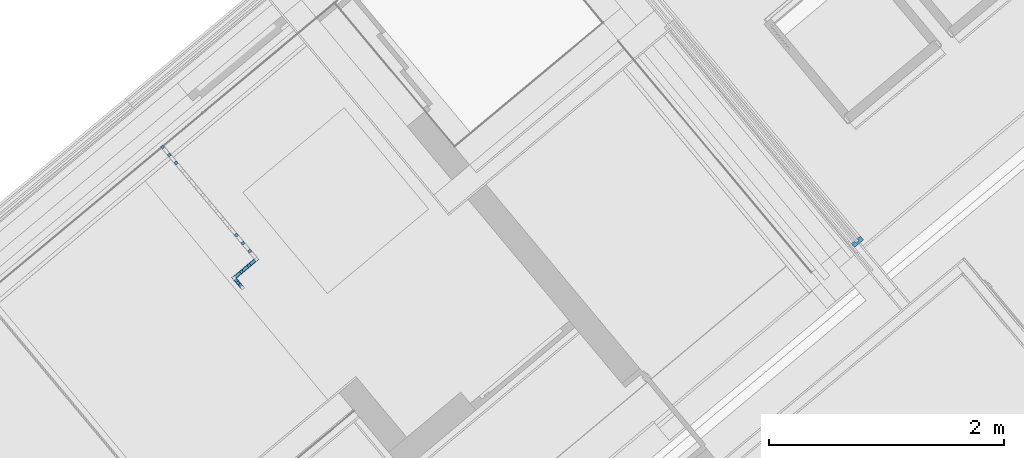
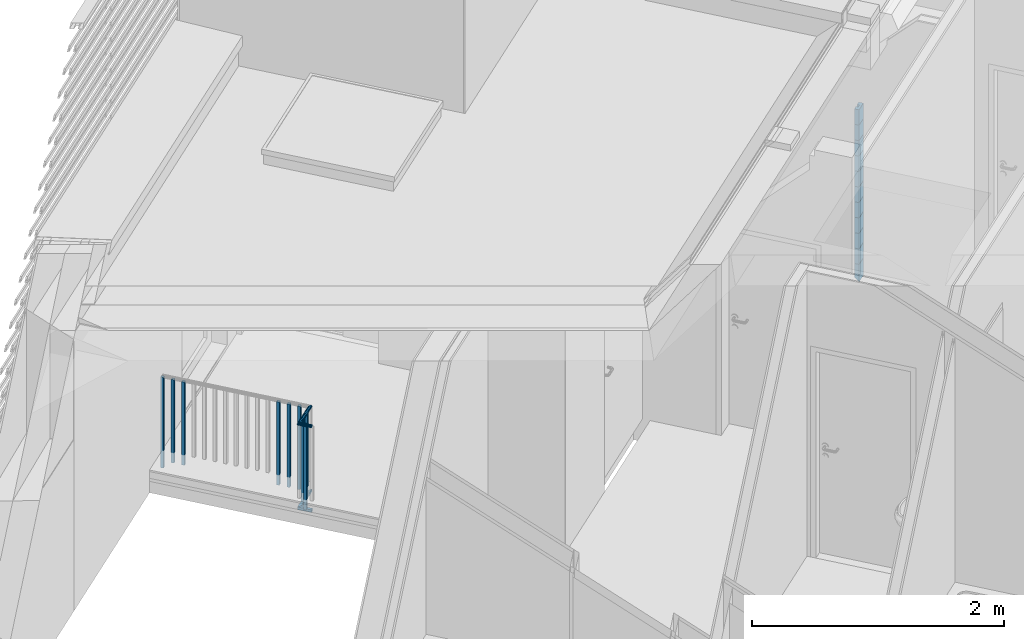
# One storey, part 43 of 50: 24 building element parts, 2 elements without a shape of their own.
"""IFC4 building model written with IfcOpenShell, lengths in metres."""

from ifc_helpers import new_model, entity, si_unit, converted_unit, derived_unit, direction, frame, origin_with_axes, place, context, subcontext, project, spatial, polygons, material, type_object, element, aggregate, save


model = new_model("IFC4")

# Units and contexts
model_context = context("Model", 3, precision=1e-05, world=origin_with_axes(), true_north=direction((0.0, 1.0)))
body_context = subcontext(model_context, "Body", "Model", "MODEL_VIEW")
ifc_project = project(units=[si_unit("LENGTHUNIT", "METRE"), si_unit("AREAUNIT", "SQUARE_METRE"), si_unit("VOLUMEUNIT", "CUBIC_METRE"), converted_unit("PLANEANGLEUNIT", "DEGREE", entity("IfcPlaneAngleMeasure", 0.0174532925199), si_unit("PLANEANGLEUNIT", "RADIAN"), dimensions=[0, 0, 0, 0, 0, 0, 0]), converted_unit("TIMEUNIT", "Year", entity("IfcTimeMeasure", 31556926.0), si_unit("TIMEUNIT", "SECOND"), dimensions=[0, 0, 1, 0, 0, 0, 0]), si_unit("MASSUNIT", "GRAM", prefix="KILO"), si_unit("THERMODYNAMICTEMPERATUREUNIT", "DEGREE_CELSIUS"), si_unit("LUMINOUSINTENSITYUNIT", "LUMEN"), si_unit("ENERGYUNIT", "JOULE", prefix="MEGA"), derived_unit("THERMALCONDUCTANCEUNIT", [(si_unit("POWERUNIT", "WATT"), 1), (si_unit("LENGTHUNIT", "METRE"), -1), (si_unit("THERMODYNAMICTEMPERATUREUNIT", "KELVIN"), -1)]), derived_unit("SPECIFICHEATCAPACITYUNIT", [(si_unit("ENERGYUNIT", "JOULE"), 1), (si_unit("MASSUNIT", "GRAM", prefix="KILO"), -1), (si_unit("THERMODYNAMICTEMPERATUREUNIT", "KELVIN"), -1)]), derived_unit("MASSDENSITYUNIT", [(si_unit("MASSUNIT", "GRAM", prefix="KILO"), 1), (si_unit("VOLUMEUNIT", "CUBIC_METRE"), -1)])], contexts=[model_context])

# Site, building, storey, space
site_placement = place(None, frame((-0.00153261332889, -0.00661245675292, 0.0), z_axis=(0.0, 0.0, 1.0), x_axis=(1.0, 0.0, 0.0)))
site = spatial("IfcSite", under=ifc_project, at=site_placement, Name="Gelände", CompositionType="ELEMENT")
building_placement = place(site_placement, origin_with_axes())
building = spatial("IfcBuilding", under=site, at=building_placement, Name="Gebäude", CompositionType="ELEMENT")
storey_placement = place(building_placement, frame((0.0, 0.0, 8.66), z_axis=(0.0, 0.0, 1.0), x_axis=(1.0, 0.0, 0.0)))
storey = spatial("IfcBuildingStorey", under=building, at=storey_placement, Name="DG2", CompositionType="ELEMENT", Elevation=8.66)
space_1_placement = place(storey_placement, frame((0.280300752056, 22.6307267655, 0.22), z_axis=(0.0, 0.0, 1.0), x_axis=(-0.641244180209, 0.767336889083, 0.0)))
space_1 = spatial("IfcSpace", under=storey, at=space_1_placement, CompositionType="ELEMENT", PredefinedType="NOTDEFINED")

# Railing, building element parts
railing_type = type_object("IfcRailingType", Name="Geländerart", PredefinedType="NOTDEFINED")
railing_placement = place(space_1_placement, frame((2.55535950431, -0.251805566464, -0.17), z_axis=(0.0, 0.0, 1.0), x_axis=(-0.641244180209, -0.767336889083, 0.0)))
railing = element("IfcRailing", 1, at=railing_placement, inside=space_1, type_object=railing_type, Name="Geländer - 001", PredefinedType="NOTDEFINED")
ifc_material_1 = material(Name="BEKLEIDUNG")
building_element_part_1_placement = place(railing_placement, origin_with_axes())
building_element_part_1 = element("IfcBuildingElementPart", 2, at=building_element_part_1_placement, material=ifc_material_1, Name="BEKLEIDUNG", PredefinedType="NOTDEFINED", context=body_context, shape_type="Tessellation", body=[
    polygons([(0.0367920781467, 0.0144514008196, 0.0), (0.0559770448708, 0.0304806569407, 0.0), (0.0559770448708, 0.0304806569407, 0.88), (0.0367920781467, 0.0144514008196, 0.88), (0.0207628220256, 0.0336363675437, 0.0), (0.0399477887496, 0.0496656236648, 0.0), (0.0399477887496, 0.0496656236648, 0.88), (0.0207628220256, 0.0336363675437, 0.88)], [[[1, 2, 3, 4]], [[1, 5, 6, 2]], [[2, 6, 7, 3]], [[4, 3, 7, 8]], [[5, 1, 4, 8]], [[6, 5, 8, 7]]], closed=True),
])
building_element_part_2_placement = place(railing_placement, origin_with_axes())
building_element_part_2 = element("IfcBuildingElementPart", 3, at=building_element_part_2_placement, material=ifc_material_1, Name="BEKLEIDUNG", PredefinedType="NOTDEFINED", context=body_context, shape_type="Tessellation", body=[
    polygons([(0.0938886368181, -0.0538858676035, 0.07), (0.113073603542, -0.0378566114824, 0.07), (0.113073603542, -0.0378566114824, 0.8775), (0.0938886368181, -0.0538858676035, 0.8775), (0.077859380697, -0.0347009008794, 0.07), (0.0970443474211, -0.0186716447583, 0.07), (0.0970443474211, -0.0186716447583, 0.8775), (0.077859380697, -0.0347009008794, 0.8775)], [[[1, 2, 3, 4]], [[1, 5, 6, 2]], [[2, 6, 7, 3]], [[4, 3, 7, 8]], [[5, 1, 4, 8]], [[6, 5, 8, 7]]], closed=True),
])
building_element_part_3_placement = place(railing_placement, origin_with_axes())
building_element_part_3 = element("IfcBuildingElementPart", 4, at=building_element_part_3_placement, material=ifc_material_1, Name="BEKLEIDUNG", PredefinedType="NOTDEFINED", context=body_context, shape_type="Tessellation", body=[
    polygons([(0.15098519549, -0.122223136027, 0.07), (0.170170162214, -0.106193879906, 0.07), (0.170170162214, -0.106193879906, 0.8775), (0.15098519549, -0.122223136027, 0.8775), (0.134955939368, -0.103038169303, 0.07), (0.154140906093, -0.0870089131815, 0.07), (0.154140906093, -0.0870089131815, 0.8775), (0.134955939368, -0.103038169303, 0.8775)], [[[1, 2, 3, 4]], [[1, 5, 6, 2]], [[2, 6, 7, 3]], [[4, 3, 7, 8]], [[5, 1, 4, 8]], [[6, 5, 8, 7]]], closed=True),
])
building_element_part_4_placement = place(railing_placement, origin_with_axes())
building_element_part_4 = element("IfcBuildingElementPart", 5, at=building_element_part_4_placement, material=ifc_material_1, Name="BEKLEIDUNG", PredefinedType="NOTDEFINED", context=body_context, shape_type="Tessellation", body=[
    polygons([(0.664854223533, -0.737258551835, 0.07), (0.684039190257, -0.721229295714, 0.07), (0.684039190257, -0.721229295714, 0.8775), (0.664854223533, -0.737258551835, 0.8775), (0.648824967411, -0.718073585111, 0.07), (0.668009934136, -0.70204432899, 0.07), (0.668009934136, -0.70204432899, 0.8775), (0.648824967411, -0.718073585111, 0.8775)], [[[1, 2, 3, 4]], [[1, 5, 6, 2]], [[2, 6, 7, 3]], [[4, 3, 7, 8]], [[5, 1, 4, 8]], [[6, 5, 8, 7]]], closed=True),
])
building_element_part_5_placement = place(railing_placement, origin_with_axes())
building_element_part_5 = element("IfcBuildingElementPart", 6, at=building_element_part_5_placement, material=ifc_material_1, Name="BEKLEIDUNG", PredefinedType="NOTDEFINED", context=body_context, shape_type="Tessellation", body=[
    polygons([(0.721950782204, -0.805595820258, 0.07), (0.741135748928, -0.789566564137, 0.07), (0.741135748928, -0.789566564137, 0.8775), (0.721950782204, -0.805595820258, 0.8775), (0.705921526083, -0.786410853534, 0.07), (0.725106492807, -0.770381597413, 0.07), (0.725106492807, -0.770381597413, 0.8775), (0.705921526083, -0.786410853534, 0.8775)], [[[1, 2, 3, 4]], [[1, 5, 6, 2]], [[2, 6, 7, 3]], [[4, 3, 7, 8]], [[5, 1, 4, 8]], [[6, 5, 8, 7]]], closed=True),
])
building_element_part_6_placement = place(railing_placement, origin_with_axes())
building_element_part_6 = element("IfcBuildingElementPart", 7, at=building_element_part_6_placement, material=ifc_material_1, Name="BEKLEIDUNG", PredefinedType="NOTDEFINED", context=body_context, shape_type="Tessellation", body=[
    polygons([(0.779047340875, -0.873933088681, 0.07), (0.7982323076, -0.85790383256, 0.07), (0.7982323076, -0.85790383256, 0.8775), (0.779047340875, -0.873933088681, 0.8775), (0.763018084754, -0.854748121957, 0.07), (0.782203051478, -0.838718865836, 0.07), (0.782203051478, -0.838718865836, 0.8775), (0.763018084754, -0.854748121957, 0.8775)], [[[1, 2, 3, 4]], [[1, 5, 6, 2]], [[2, 6, 7, 3]], [[4, 3, 7, 8]], [[5, 1, 4, 8]], [[6, 5, 8, 7]]], closed=True),
])
building_element_part_7_placement = place(railing_placement, origin_with_axes())
building_element_part_7 = element("IfcBuildingElementPart", 8, at=building_element_part_7_placement, material=ifc_material_1, Name="BEKLEIDUNG", PredefinedType="NOTDEFINED", context=body_context, shape_type="Tessellation", body=[
    polygons([(0.858808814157, -0.9265070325, 0.885), (0.858488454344, -0.926479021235, 0.887604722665), (0.668377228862, -1.08671929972, 0.887604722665), (0.668698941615, -1.08674617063, 0.885), (0.858488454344, -0.926479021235, 0.882395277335), (0.857537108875, -0.926395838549, 0.87986969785), (0.855983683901, -0.926260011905, 0.8775), (0.853875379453, -0.926075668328, 0.875358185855), (0.851276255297, -0.925848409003, 0.873509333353), (0.848265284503, -0.925585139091, 0.872009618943), (0.844933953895, -0.925293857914, 0.870904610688), (0.84138348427, -0.924983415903, 0.870227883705), (0.837721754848, -0.924663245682, 0.87), (0.834060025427, -0.924343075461, 0.870227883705), (0.830509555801, -0.92403263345, 0.870904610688), (0.827178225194, -0.923741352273, 0.872009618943), (0.8241672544, -0.92347808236, 0.873509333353), (0.821568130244, -0.923250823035, 0.875358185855), (0.819459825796, -0.923066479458, 0.8775), (0.817906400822, -0.922930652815, 0.87986969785), (0.816955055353, -0.922847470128, 0.882395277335), (0.81663469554, -0.922819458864, 0.885), (0.816955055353, -0.922847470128, 0.887604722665), (0.817906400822, -0.922930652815, 0.89013030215), (0.819459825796, -0.923066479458, 0.8925), (0.821568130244, -0.923250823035, 0.894641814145), (0.8241672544, -0.92347808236, 0.896490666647), (0.827178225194, -0.923741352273, 0.897990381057), (0.830509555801, -0.92403263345, 0.899095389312), (0.834060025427, -0.924343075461, 0.899772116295), (0.837721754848, -0.924663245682, 0.9), (0.84138348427, -0.924983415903, 0.899772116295), (0.844933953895, -0.925293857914, 0.899095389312), (0.848265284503, -0.925585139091, 0.897990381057), (0.851276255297, -0.925848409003, 0.896490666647), (0.853875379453, -0.926075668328, 0.894641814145), (0.855983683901, -0.926260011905, 0.8925), (0.857537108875, -0.926395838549, 0.89013030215), (0.667421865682, -1.08663950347, 0.89013030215), (0.665861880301, -1.08650920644, 0.8925), (0.663744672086, -1.08633236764, 0.894641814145), (0.661134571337, -1.08611436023, 0.896490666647), (0.658110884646, -1.08586180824, 0.897990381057), (0.654765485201, -1.08558238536, 0.899095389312), (0.651200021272, -1.08528458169, 0.899772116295), (0.647522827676, -1.08497744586, 0.9), (0.64384563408, -1.08467031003, 0.899772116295), (0.640280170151, -1.08437250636, 0.899095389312), (0.636934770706, -1.08409308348, 0.897990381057), (0.633911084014, -1.0838405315, 0.896490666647), (0.631300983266, -1.08362252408, 0.894641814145), (0.629183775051, -1.08344568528, 0.8925), (0.62762378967, -1.08331538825, 0.89013030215), (0.62666842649, -1.083235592, 0.887604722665), (0.626346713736, -1.0832087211, 0.885), (0.62666842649, -1.083235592, 0.882395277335), (0.62762378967, -1.08331538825, 0.87986969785), (0.629183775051, -1.08344568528, 0.8775), (0.631300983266, -1.08362252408, 0.875358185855), (0.633911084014, -1.0838405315, 0.873509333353), (0.636934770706, -1.08409308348, 0.872009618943), (0.640280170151, -1.08437250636, 0.870904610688), (0.64384563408, -1.08467031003, 0.870227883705), (0.647522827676, -1.08497744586, 0.87), (0.651200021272, -1.08528458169, 0.870227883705), (0.654765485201, -1.08558238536, 0.870904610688), (0.658110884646, -1.08586180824, 0.872009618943), (0.661134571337, -1.08611436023, 0.873509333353), (0.663744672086, -1.08633236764, 0.875358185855), (0.665861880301, -1.08650920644, 0.8775), (0.667421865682, -1.08663950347, 0.87986969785), (0.668377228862, -1.08671929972, 0.882395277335)], [[[1, 2, 3, 4]], [[1, 5, 6, 7, 8, 9, 10, 11, 12, 13, 14, 15, 16, 17, 18, 19, 20, 21, 22, 23, 24, 25, 26, 27, 28, 29, 30, 31, 32, 33, 34, 35, 36, 37, 38, 2]], [[2, 38, 39, 3]], [[4, 3, 39, 40, 41, 42, 43, 44, 45, 46, 47, 48, 49, 50, 51, 52, 53, 54, 55, 56, 57, 58, 59, 60, 61, 62, 63, 64, 65, 66, 67, 68, 69, 70, 71, 72]], [[5, 1, 4, 72]], [[6, 5, 72, 71]], [[7, 6, 71, 70]], [[8, 7, 70, 69]], [[9, 8, 69, 68]], [[10, 9, 68, 67]], [[11, 10, 67, 66]], [[12, 11, 66, 65]], [[13, 12, 65, 64]], [[14, 13, 64, 63]], [[15, 14, 63, 62]], [[16, 15, 62, 61]], [[17, 16, 61, 60]], [[18, 17, 60, 59]], [[19, 18, 59, 58]], [[20, 19, 58, 57]], [[21, 20, 57, 56]], [[22, 21, 56, 55]], [[23, 22, 55, 54]], [[24, 23, 54, 53]], [[25, 24, 53, 52]], [[26, 25, 52, 51]], [[27, 26, 51, 50]], [[28, 27, 50, 49]], [[29, 28, 49, 48]], [[30, 29, 48, 47]], [[31, 30, 47, 46]], [[32, 31, 46, 45]], [[33, 32, 45, 44]], [[34, 33, 44, 43]], [[35, 34, 43, 42]], [[36, 35, 42, 41]], [[37, 36, 41, 40]], [[38, 37, 40, 39]]], closed=True),
])
building_element_part_8_placement = place(railing_placement, origin_with_axes())
building_element_part_8 = element("IfcBuildingElementPart", 9, at=building_element_part_8_placement, material=ifc_material_1, Name="BEKLEIDUNG", PredefinedType="NOTDEFINED", context=body_context, shape_type="Tessellation", body=[
    polygons([(0.820149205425, -0.923126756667, 0.0825), (0.820149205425, -0.923126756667, 0.0575), (0.62987606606, -1.08350350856, 0.0575), (0.62987606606, -1.08350350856, 0.0825), (0.855294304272, -0.926199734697, 0.0825), (0.855294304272, -0.926199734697, 0.0575), (0.665169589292, -1.08645138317, 0.0575), (0.665169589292, -1.08645138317, 0.0825)], [[[1, 2, 3, 4]], [[1, 5, 6, 2]], [[2, 6, 7, 3]], [[4, 3, 7, 8]], [[5, 1, 4, 8]], [[6, 5, 8, 7]]], closed=True),
])
building_element_part_9_placement = place(railing_placement, origin_with_axes())
building_element_part_9 = element("IfcBuildingElementPart", 10, at=building_element_part_9_placement, material=ifc_material_1, Name="BEKLEIDUNG", PredefinedType="NOTDEFINED", context=body_context, shape_type="Tessellation", body=[
    polygons([(0.756708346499, -0.976599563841, 0.07), (0.77282036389, -0.995715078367, 0.07), (0.77282036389, -0.995715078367, 0.8775), (0.756708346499, -0.976599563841, 0.8775), (0.775823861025, -0.96048754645, 0.07), (0.791935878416, -0.979603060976, 0.07), (0.791935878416, -0.979603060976, 0.8775), (0.775823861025, -0.96048754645, 0.8775)], [[[1, 2, 3, 4]], [[1, 5, 6, 2]], [[2, 6, 7, 3]], [[4, 3, 7, 8]], [[5, 1, 4, 8]], [[6, 5, 8, 7]]], closed=True),
])
building_element_part_10_placement = place(railing_placement, origin_with_axes())
building_element_part_10 = element("IfcBuildingElementPart", 11, at=building_element_part_10_placement, material=ifc_material_1, Name="BEKLEIDUNG", PredefinedType="NOTDEFINED", context=body_context, shape_type="Tessellation", body=[
    polygons([(0.693308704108, -1.03003763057, 0.07), (0.709420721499, -1.04915314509, 0.07), (0.709420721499, -1.04915314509, 0.8775), (0.693308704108, -1.03003763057, 0.8775), (0.712424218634, -1.01392561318, 0.07), (0.728536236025, -1.0330411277, 0.07), (0.728536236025, -1.0330411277, 0.8775), (0.712424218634, -1.01392561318, 0.8775)], [[[1, 2, 3, 4]], [[1, 5, 6, 2]], [[2, 6, 7, 3]], [[4, 3, 7, 8]], [[5, 1, 4, 8]], [[6, 5, 8, 7]]], closed=True),
])
building_element_part_11_placement = place(railing_placement, origin_with_axes())
building_element_part_11 = element("IfcBuildingElementPart", 12, at=building_element_part_11_placement, material=ifc_material_1, Name="BEKLEIDUNG", PredefinedType="NOTDEFINED", context=body_context, shape_type="Tessellation", body=[
    polygons([(0.668698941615, -1.08674617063, 0.885), (0.668377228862, -1.08671929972, 0.887604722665), (0.728170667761, -1.15716494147, 0.887604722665), (0.728344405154, -1.1570174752, 0.885), (0.668377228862, -1.08671929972, 0.882395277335), (0.667421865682, -1.08663950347, 0.87986969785), (0.665861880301, -1.08650920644, 0.8775), (0.663744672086, -1.08633236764, 0.875358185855), (0.661134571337, -1.08611436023, 0.873509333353), (0.658110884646, -1.08586180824, 0.872009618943), (0.654765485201, -1.08558238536, 0.870904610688), (0.651200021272, -1.08528458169, 0.870227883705), (0.647522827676, -1.08497744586, 0.87), (0.64384563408, -1.08467031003, 0.870227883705), (0.640280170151, -1.08437250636, 0.870904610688), (0.636934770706, -1.08409308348, 0.872009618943), (0.633911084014, -1.0838405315, 0.873509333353), (0.631300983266, -1.08362252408, 0.875358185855), (0.629183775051, -1.08344568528, 0.8775), (0.62762378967, -1.08331538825, 0.87986969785), (0.62666842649, -1.083235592, 0.882395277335), (0.626346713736, -1.0832087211, 0.885), (0.62666842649, -1.083235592, 0.887604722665), (0.62762378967, -1.08331538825, 0.89013030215), (0.629183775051, -1.08344568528, 0.8925), (0.631300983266, -1.08362252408, 0.894641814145), (0.633911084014, -1.0838405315, 0.896490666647), (0.636934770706, -1.08409308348, 0.897990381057), (0.640280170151, -1.08437250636, 0.899095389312), (0.64384563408, -1.08467031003, 0.899772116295), (0.647522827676, -1.08497744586, 0.9), (0.651200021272, -1.08528458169, 0.899772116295), (0.654765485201, -1.08558238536, 0.899095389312), (0.658110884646, -1.08586180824, 0.897990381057), (0.661134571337, -1.08611436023, 0.896490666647), (0.663744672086, -1.08633236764, 0.894641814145), (0.665861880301, -1.08650920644, 0.8925), (0.667421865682, -1.08663950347, 0.89013030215), (0.727654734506, -1.1576028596, 0.89013030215), (0.72681228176, -1.15831792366, 0.8925), (0.725668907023, -1.1592884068, 0.894641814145), (0.724259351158, -1.16048482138, 0.896490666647), (0.722626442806, -1.16187081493, 0.897990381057), (0.720819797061, -1.16340427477, 0.899095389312), (0.718894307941, -1.16503860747, 0.899772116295), (0.716908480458, -1.16672415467, 0.9), (0.714922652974, -1.16840970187, 0.899772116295), (0.712997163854, -1.17004403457, 0.899095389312), (0.71119051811, -1.17157749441, 0.897990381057), (0.709557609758, -1.17296348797, 0.896490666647), (0.708148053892, -1.17415990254, 0.894641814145), (0.707004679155, -1.17513038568, 0.8925), (0.706162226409, -1.17584544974, 0.89013030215), (0.705646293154, -1.17628336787, 0.887604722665), (0.705472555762, -1.17643083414, 0.885), (0.705646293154, -1.17628336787, 0.882395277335), (0.706162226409, -1.17584544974, 0.87986969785), (0.707004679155, -1.17513038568, 0.8775), (0.708148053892, -1.17415990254, 0.875358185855), (0.709557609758, -1.17296348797, 0.873509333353), (0.71119051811, -1.17157749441, 0.872009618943), (0.712997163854, -1.17004403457, 0.870904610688), (0.714922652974, -1.16840970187, 0.870227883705), (0.716908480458, -1.16672415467, 0.87), (0.718894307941, -1.16503860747, 0.870227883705), (0.720819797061, -1.16340427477, 0.870904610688), (0.722626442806, -1.16187081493, 0.872009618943), (0.724259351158, -1.16048482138, 0.873509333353), (0.725668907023, -1.1592884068, 0.875358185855), (0.72681228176, -1.15831792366, 0.8775), (0.727654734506, -1.1576028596, 0.87986969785), (0.728170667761, -1.15716494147, 0.882395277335)], [[[1, 2, 3, 4]], [[1, 5, 6, 7, 8, 9, 10, 11, 12, 13, 14, 15, 16, 17, 18, 19, 20, 21, 22, 23, 24, 25, 26, 27, 28, 29, 30, 31, 32, 33, 34, 35, 36, 37, 38, 2]], [[2, 38, 39, 3]], [[4, 3, 39, 40, 41, 42, 43, 44, 45, 46, 47, 48, 49, 50, 51, 52, 53, 54, 55, 56, 57, 58, 59, 60, 61, 62, 63, 64, 65, 66, 67, 68, 69, 70, 71, 72]], [[5, 1, 4, 72]], [[6, 5, 72, 71]], [[7, 6, 71, 70]], [[8, 7, 70, 69]], [[9, 8, 69, 68]], [[10, 9, 68, 67]], [[11, 10, 67, 66]], [[12, 11, 66, 65]], [[13, 12, 65, 64]], [[14, 13, 64, 63]], [[15, 14, 63, 62]], [[16, 15, 62, 61]], [[17, 16, 61, 60]], [[18, 17, 60, 59]], [[19, 18, 59, 58]], [[20, 19, 58, 57]], [[21, 20, 57, 56]], [[22, 21, 56, 55]], [[23, 22, 55, 54]], [[24, 23, 54, 53]], [[25, 24, 53, 52]], [[26, 25, 52, 51]], [[27, 26, 51, 50]], [[28, 27, 50, 49]], [[29, 28, 49, 48]], [[30, 29, 48, 47]], [[31, 30, 47, 46]], [[32, 31, 46, 45]], [[33, 32, 45, 44]], [[34, 33, 44, 43]], [[35, 34, 43, 42]], [[36, 35, 42, 41]], [[37, 36, 41, 40]], [[38, 37, 40, 39]]], closed=True),
])
building_element_part_12_placement = place(railing_placement, origin_with_axes())
building_element_part_12 = element("IfcBuildingElementPart", 13, at=building_element_part_12_placement, material=ifc_material_1, Name="BEKLEIDUNG", PredefinedType="NOTDEFINED", context=body_context, shape_type="Tessellation", body=[
    polygons([(0.62987606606, -1.08350350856, 0.0825), (0.62987606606, -1.08350350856, 0.0575), (0.707378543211, -1.17481305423, 0.0575), (0.707378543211, -1.17481305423, 0.0825), (0.665169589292, -1.08645138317, 0.0825), (0.665169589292, -1.08645138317, 0.0575), (0.726438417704, -1.15863525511, 0.0575), (0.726438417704, -1.15863525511, 0.0825)], [[[1, 2, 3, 4]], [[1, 5, 6, 2]], [[2, 6, 7, 3]], [[4, 3, 7, 8]], [[5, 1, 4, 8]], [[6, 5, 8, 7]]], closed=True),
])
building_element_part_13_placement = place(railing_placement, origin_with_axes())
building_element_part_13 = element("IfcBuildingElementPart", 14, at=building_element_part_13_placement, material=ifc_material_1, Name="BEKLEIDUNG", PredefinedType="NOTDEFINED", context=body_context, shape_type="Tessellation", body=[
    polygons([(0.680774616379, -1.14346963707, 0.07), (0.699834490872, -1.12729183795, 0.07), (0.699834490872, -1.12729183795, 0.8775), (0.680774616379, -1.14346963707, 0.8775), (0.664596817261, -1.12440976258, 0.07), (0.683656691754, -1.10823196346, 0.07), (0.683656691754, -1.10823196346, 0.8775), (0.664596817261, -1.12440976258, 0.8775)], [[[1, 2, 3, 4]], [[1, 5, 6, 2]], [[2, 6, 7, 3]], [[4, 3, 7, 8]], [[5, 1, 4, 8]], [[6, 5, 8, 7]]], closed=True),
])
aggregate(railing, [building_element_part_1, building_element_part_2, building_element_part_3, building_element_part_4, building_element_part_5, building_element_part_6, building_element_part_7, building_element_part_8, building_element_part_9, building_element_part_10, building_element_part_11, building_element_part_12, building_element_part_13])

# Space
space_2_placement = place(storey_placement, frame((6.83696947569, 22.4856827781, 0.22), z_axis=(0.0, 0.0, 1.0), x_axis=(0.767365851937, 0.641209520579, 0.0)))
space_2 = spatial("IfcSpace", under=storey, at=space_2_placement, CompositionType="ELEMENT", PredefinedType="NOTDEFINED")

# Curtain wall, building element parts
curtain_wall_type = type_object("IfcCurtainWallType", Name="Fassadentyp", PredefinedType="NOTDEFINED")
curtain_wall_placement = place(space_2_placement, frame((-0.611260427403, 4.89750550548, 0.1), z_axis=(0.0, 0.0, 1.0), x_axis=(0.767365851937, -0.641209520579, 0.0)))
curtain_wall = element("IfcCurtainWall", 15, at=curtain_wall_placement, inside=space_2, type_object=curtain_wall_type, Name="Fassade-001", PredefinedType="NOTDEFINED")
ifc_material_2 = material(Name="Blech")
building_element_part_14_placement = place(curtain_wall_placement, origin_with_axes())
building_element_part_14 = element("IfcBuildingElementPart", 16, at=building_element_part_14_placement, material=ifc_material_2, Name="Blech", PredefinedType="NOTDEFINED", context=body_context, shape_type="Tessellation", body=[
    polygons([(1.55485923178, -1.88503623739, 0.15), (1.54203854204, -1.86968599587, 0.15), (1.51517561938, -1.8921222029, 0.15), (1.54081699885, -1.92282268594, 0.15), (1.61756820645, -1.85871923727, 0.15), (1.59192682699, -1.82801875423, 0.15), (1.56506390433, -1.85045496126, 0.15), (1.57788459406, -1.86580520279, 0.15), (1.55485923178, -1.88503623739, 0.0), (1.54203854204, -1.86968599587, 0.02), (1.51517561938, -1.8921222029, 0.02), (1.54081699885, -1.92282268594, -0.02), (1.61756820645, -1.85871923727, -0.02), (1.59192682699, -1.82801875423, 0.02), (1.56506390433, -1.85045496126, 0.02), (1.57788459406, -1.86580520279, 0.0)], [[[1, 2, 3, 4, 5, 6, 7, 8]], [[1, 9, 10, 2]], [[10, 11, 3, 2]], [[3, 11, 12, 4]], [[4, 12, 13, 5]], [[5, 13, 14, 6]], [[7, 6, 14, 15]], [[15, 16, 8, 7]], [[8, 16, 9, 1]], [[9, 16, 15, 14, 13, 12, 11, 10]]], closed=True),
])
building_element_part_15_placement = place(curtain_wall_placement, origin_with_axes())
building_element_part_15 = element("IfcBuildingElementPart", 17, at=building_element_part_15_placement, material=ifc_material_2, Name="Blech", PredefinedType="NOTDEFINED", context=body_context, shape_type="Tessellation", body=[
    polygons([(1.55485923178, -1.88503623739, 0.3), (1.54203854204, -1.86968599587, 0.3), (1.51517561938, -1.8921222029, 0.3), (1.54081699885, -1.92282268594, 0.3), (1.61756820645, -1.85871923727, 0.3), (1.59192682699, -1.82801875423, 0.3), (1.56506390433, -1.85045496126, 0.3), (1.57788459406, -1.86580520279, 0.3), (1.55485923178, -1.88503623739, 0.15), (1.54203854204, -1.86968599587, 0.15), (1.51517561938, -1.8921222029, 0.15), (1.54081699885, -1.92282268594, 0.15), (1.61756820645, -1.85871923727, 0.15), (1.59192682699, -1.82801875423, 0.15), (1.56506390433, -1.85045496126, 0.15), (1.57788459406, -1.86580520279, 0.15)], [[[1, 2, 3, 4, 5, 6, 7, 8]], [[1, 9, 10, 2]], [[10, 11, 3, 2]], [[11, 12, 4, 3]], [[12, 13, 5, 4]], [[13, 14, 6, 5]], [[7, 6, 14, 15]], [[15, 16, 8, 7]], [[8, 16, 9, 1]], [[9, 16, 15, 14, 13, 12, 11, 10]]], closed=True),
])
building_element_part_16_placement = place(curtain_wall_placement, origin_with_axes())
building_element_part_16 = element("IfcBuildingElementPart", 18, at=building_element_part_16_placement, material=ifc_material_2, Name="Blech", PredefinedType="NOTDEFINED", context=body_context, shape_type="Tessellation", body=[
    polygons([(1.55485923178, -1.88503623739, 0.45), (1.54203854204, -1.86968599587, 0.45), (1.51517561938, -1.8921222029, 0.45), (1.54081699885, -1.92282268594, 0.45), (1.61756820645, -1.85871923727, 0.45), (1.59192682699, -1.82801875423, 0.45), (1.56506390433, -1.85045496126, 0.45), (1.57788459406, -1.86580520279, 0.45), (1.55485923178, -1.88503623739, 0.3), (1.54203854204, -1.86968599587, 0.3), (1.51517561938, -1.8921222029, 0.3), (1.54081699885, -1.92282268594, 0.3), (1.61756820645, -1.85871923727, 0.3), (1.59192682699, -1.82801875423, 0.3), (1.56506390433, -1.85045496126, 0.3), (1.57788459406, -1.86580520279, 0.3)], [[[1, 2, 3, 4, 5, 6, 7, 8]], [[1, 9, 10, 2]], [[10, 11, 3, 2]], [[11, 12, 4, 3]], [[12, 13, 5, 4]], [[13, 14, 6, 5]], [[7, 6, 14, 15]], [[15, 16, 8, 7]], [[8, 16, 9, 1]], [[9, 16, 15, 14, 13, 12, 11, 10]]], closed=True),
])
building_element_part_17_placement = place(curtain_wall_placement, origin_with_axes())
building_element_part_17 = element("IfcBuildingElementPart", 19, at=building_element_part_17_placement, material=ifc_material_2, Name="Blech", PredefinedType="NOTDEFINED", context=body_context, shape_type="Tessellation", body=[
    polygons([(1.55485923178, -1.88503623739, 0.6), (1.54203854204, -1.86968599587, 0.6), (1.51517561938, -1.8921222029, 0.6), (1.54081699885, -1.92282268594, 0.6), (1.61756820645, -1.85871923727, 0.6), (1.59192682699, -1.82801875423, 0.6), (1.56506390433, -1.85045496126, 0.6), (1.57788459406, -1.86580520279, 0.6), (1.55485923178, -1.88503623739, 0.45), (1.54203854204, -1.86968599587, 0.45), (1.51517561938, -1.8921222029, 0.45), (1.54081699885, -1.92282268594, 0.45), (1.61756820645, -1.85871923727, 0.45), (1.59192682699, -1.82801875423, 0.45), (1.56506390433, -1.85045496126, 0.45), (1.57788459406, -1.86580520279, 0.45)], [[[1, 2, 3, 4, 5, 6, 7, 8]], [[1, 9, 10, 2]], [[10, 11, 3, 2]], [[11, 12, 4, 3]], [[12, 13, 5, 4]], [[13, 14, 6, 5]], [[7, 6, 14, 15]], [[15, 16, 8, 7]], [[8, 16, 9, 1]], [[9, 16, 15, 14, 13, 12, 11, 10]]], closed=True),
])
building_element_part_18_placement = place(curtain_wall_placement, origin_with_axes())
building_element_part_18 = element("IfcBuildingElementPart", 20, at=building_element_part_18_placement, material=ifc_material_2, Name="Blech", PredefinedType="NOTDEFINED", context=body_context, shape_type="Tessellation", body=[
    polygons([(1.55485923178, -1.88503623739, 0.75), (1.54203854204, -1.86968599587, 0.75), (1.51517561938, -1.8921222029, 0.75), (1.54081699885, -1.92282268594, 0.75), (1.61756820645, -1.85871923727, 0.75), (1.59192682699, -1.82801875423, 0.75), (1.56506390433, -1.85045496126, 0.75), (1.57788459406, -1.86580520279, 0.75), (1.55485923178, -1.88503623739, 0.6), (1.54203854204, -1.86968599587, 0.6), (1.51517561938, -1.8921222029, 0.6), (1.54081699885, -1.92282268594, 0.6), (1.61756820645, -1.85871923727, 0.6), (1.59192682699, -1.82801875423, 0.6), (1.56506390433, -1.85045496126, 0.6), (1.57788459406, -1.86580520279, 0.6)], [[[1, 2, 3, 4, 5, 6, 7, 8]], [[1, 9, 10, 2]], [[10, 11, 3, 2]], [[11, 12, 4, 3]], [[12, 13, 5, 4]], [[13, 14, 6, 5]], [[7, 6, 14, 15]], [[15, 16, 8, 7]], [[8, 16, 9, 1]], [[9, 16, 15, 14, 13, 12, 11, 10]]], closed=True),
])
building_element_part_19_placement = place(curtain_wall_placement, origin_with_axes())
building_element_part_19 = element("IfcBuildingElementPart", 21, at=building_element_part_19_placement, material=ifc_material_2, Name="Blech", PredefinedType="NOTDEFINED", context=body_context, shape_type="Tessellation", body=[
    polygons([(1.55485923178, -1.88503623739, 0.9), (1.54203854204, -1.86968599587, 0.9), (1.51517561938, -1.8921222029, 0.9), (1.54081699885, -1.92282268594, 0.9), (1.61756820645, -1.85871923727, 0.9), (1.59192682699, -1.82801875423, 0.9), (1.56506390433, -1.85045496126, 0.9), (1.57788459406, -1.86580520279, 0.9), (1.55485923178, -1.88503623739, 0.75), (1.54203854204, -1.86968599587, 0.75), (1.51517561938, -1.8921222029, 0.75), (1.54081699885, -1.92282268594, 0.75), (1.61756820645, -1.85871923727, 0.75), (1.59192682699, -1.82801875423, 0.75), (1.56506390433, -1.85045496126, 0.75), (1.57788459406, -1.86580520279, 0.75)], [[[1, 2, 3, 4, 5, 6, 7, 8]], [[1, 9, 10, 2]], [[10, 11, 3, 2]], [[11, 12, 4, 3]], [[12, 13, 5, 4]], [[13, 14, 6, 5]], [[7, 6, 14, 15]], [[15, 16, 8, 7]], [[8, 16, 9, 1]], [[9, 16, 15, 14, 13, 12, 11, 10]]], closed=True),
])
building_element_part_20_placement = place(curtain_wall_placement, origin_with_axes())
building_element_part_20 = element("IfcBuildingElementPart", 22, at=building_element_part_20_placement, material=ifc_material_2, Name="Blech", PredefinedType="NOTDEFINED", context=body_context, shape_type="Tessellation", body=[
    polygons([(1.55485923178, -1.88503623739, 1.05), (1.54203854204, -1.86968599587, 1.05), (1.51517561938, -1.8921222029, 1.05), (1.54081699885, -1.92282268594, 1.05), (1.61756820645, -1.85871923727, 1.05), (1.59192682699, -1.82801875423, 1.05), (1.56506390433, -1.85045496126, 1.05), (1.57788459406, -1.86580520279, 1.05), (1.55485923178, -1.88503623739, 0.9), (1.54203854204, -1.86968599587, 0.9), (1.51517561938, -1.8921222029, 0.9), (1.54081699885, -1.92282268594, 0.9), (1.61756820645, -1.85871923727, 0.9), (1.59192682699, -1.82801875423, 0.9), (1.56506390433, -1.85045496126, 0.9), (1.57788459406, -1.86580520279, 0.9)], [[[1, 2, 3, 4, 5, 6, 7, 8]], [[1, 9, 10, 2]], [[10, 11, 3, 2]], [[11, 12, 4, 3]], [[12, 13, 5, 4]], [[13, 14, 6, 5]], [[7, 6, 14, 15]], [[15, 16, 8, 7]], [[8, 16, 9, 1]], [[9, 16, 15, 14, 13, 12, 11, 10]]], closed=True),
])
building_element_part_21_placement = place(curtain_wall_placement, origin_with_axes())
building_element_part_21 = element("IfcBuildingElementPart", 23, at=building_element_part_21_placement, material=ifc_material_2, Name="Blech", PredefinedType="NOTDEFINED", context=body_context, shape_type="Tessellation", body=[
    polygons([(1.55485923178, -1.88503623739, 1.2), (1.54203854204, -1.86968599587, 1.2), (1.51517561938, -1.8921222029, 1.2), (1.54081699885, -1.92282268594, 1.2), (1.61756820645, -1.85871923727, 1.2), (1.59192682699, -1.82801875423, 1.2), (1.56506390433, -1.85045496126, 1.2), (1.57788459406, -1.86580520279, 1.2), (1.55485923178, -1.88503623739, 1.05), (1.54203854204, -1.86968599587, 1.05), (1.51517561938, -1.8921222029, 1.05), (1.54081699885, -1.92282268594, 1.05), (1.61756820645, -1.85871923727, 1.05), (1.59192682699, -1.82801875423, 1.05), (1.56506390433, -1.85045496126, 1.05), (1.57788459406, -1.86580520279, 1.05)], [[[1, 2, 3, 4, 5, 6, 7, 8]], [[1, 9, 10, 2]], [[10, 11, 3, 2]], [[11, 12, 4, 3]], [[12, 13, 5, 4]], [[13, 14, 6, 5]], [[7, 6, 14, 15]], [[15, 16, 8, 7]], [[8, 16, 9, 1]], [[9, 16, 15, 14, 13, 12, 11, 10]]], closed=True),
])
building_element_part_22_placement = place(curtain_wall_placement, origin_with_axes())
building_element_part_22 = element("IfcBuildingElementPart", 24, at=building_element_part_22_placement, material=ifc_material_2, Name="Blech", PredefinedType="NOTDEFINED", context=body_context, shape_type="Tessellation", body=[
    polygons([(1.55485923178, -1.88503623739, 1.35), (1.54203854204, -1.86968599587, 1.35), (1.51517561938, -1.8921222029, 1.35), (1.54081699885, -1.92282268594, 1.35), (1.61756820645, -1.85871923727, 1.35), (1.59192682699, -1.82801875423, 1.35), (1.56506390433, -1.85045496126, 1.35), (1.57788459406, -1.86580520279, 1.35), (1.55485923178, -1.88503623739, 1.2), (1.54203854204, -1.86968599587, 1.2), (1.51517561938, -1.8921222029, 1.2), (1.54081699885, -1.92282268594, 1.2), (1.61756820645, -1.85871923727, 1.2), (1.59192682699, -1.82801875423, 1.2), (1.56506390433, -1.85045496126, 1.2), (1.57788459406, -1.86580520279, 1.2)], [[[1, 2, 3, 4, 5, 6, 7, 8]], [[1, 9, 10, 2]], [[10, 11, 3, 2]], [[11, 12, 4, 3]], [[12, 13, 5, 4]], [[13, 14, 6, 5]], [[7, 6, 14, 15]], [[15, 16, 8, 7]], [[8, 16, 9, 1]], [[9, 16, 15, 14, 13, 12, 11, 10]]], closed=True),
])
building_element_part_23_placement = place(curtain_wall_placement, origin_with_axes())
building_element_part_23 = element("IfcBuildingElementPart", 25, at=building_element_part_23_placement, material=ifc_material_2, Name="Blech", PredefinedType="NOTDEFINED", context=body_context, shape_type="Tessellation", body=[
    polygons([(1.55485923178, -1.88503623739, 1.5), (1.54203854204, -1.86968599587, 1.5), (1.51517561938, -1.8921222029, 1.5), (1.54081699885, -1.92282268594, 1.5), (1.61756820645, -1.85871923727, 1.5), (1.59192682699, -1.82801875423, 1.5), (1.56506390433, -1.85045496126, 1.5), (1.57788459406, -1.86580520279, 1.5), (1.55485923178, -1.88503623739, 1.35), (1.54203854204, -1.86968599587, 1.35), (1.51517561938, -1.8921222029, 1.35), (1.54081699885, -1.92282268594, 1.35), (1.61756820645, -1.85871923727, 1.35), (1.59192682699, -1.82801875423, 1.35), (1.56506390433, -1.85045496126, 1.35), (1.57788459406, -1.86580520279, 1.35)], [[[1, 2, 3, 4, 5, 6, 7, 8]], [[1, 9, 10, 2]], [[10, 11, 3, 2]], [[11, 12, 4, 3]], [[12, 13, 5, 4]], [[13, 14, 6, 5]], [[7, 6, 14, 15]], [[15, 16, 8, 7]], [[8, 16, 9, 1]], [[9, 16, 15, 14, 13, 12, 11, 10]]], closed=True),
])
building_element_part_24_placement = place(curtain_wall_placement, origin_with_axes())
building_element_part_24 = element("IfcBuildingElementPart", 26, at=building_element_part_24_placement, material=ifc_material_2, Name="Blech", PredefinedType="NOTDEFINED", context=body_context, shape_type="Tessellation", body=[
    polygons([(1.55485923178, -1.88503623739, 1.65), (1.54203854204, -1.86968599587, 1.65), (1.51517561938, -1.8921222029, 1.65), (1.54081699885, -1.92282268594, 1.65), (1.61756820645, -1.85871923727, 1.65), (1.59192682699, -1.82801875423, 1.65), (1.56506390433, -1.85045496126, 1.65), (1.57788459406, -1.86580520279, 1.65), (1.55485923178, -1.88503623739, 1.5), (1.54203854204, -1.86968599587, 1.5), (1.51517561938, -1.8921222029, 1.5), (1.54081699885, -1.92282268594, 1.5), (1.61756820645, -1.85871923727, 1.5), (1.59192682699, -1.82801875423, 1.5), (1.56506390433, -1.85045496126, 1.5), (1.57788459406, -1.86580520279, 1.5)], [[[1, 2, 3, 4, 5, 6, 7, 8]], [[1, 9, 10, 2]], [[10, 11, 3, 2]], [[11, 12, 4, 3]], [[12, 13, 5, 4]], [[13, 14, 6, 5]], [[7, 6, 14, 15]], [[15, 16, 8, 7]], [[8, 16, 9, 1]], [[9, 16, 15, 14, 13, 12, 11, 10]]], closed=True),
])
aggregate(curtain_wall, [building_element_part_14, building_element_part_15, building_element_part_16, building_element_part_17, building_element_part_18, building_element_part_19, building_element_part_20, building_element_part_21, building_element_part_22, building_element_part_23, building_element_part_24])

save(model, "model.ifc")
